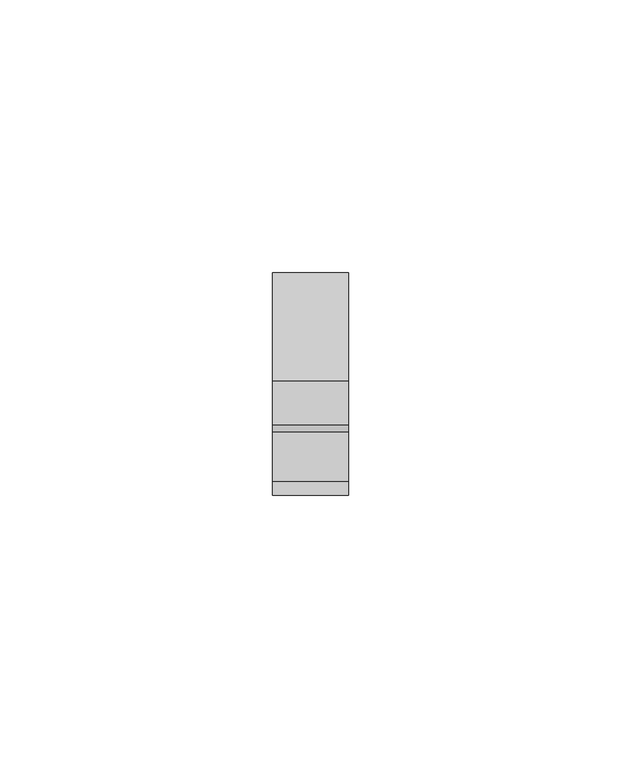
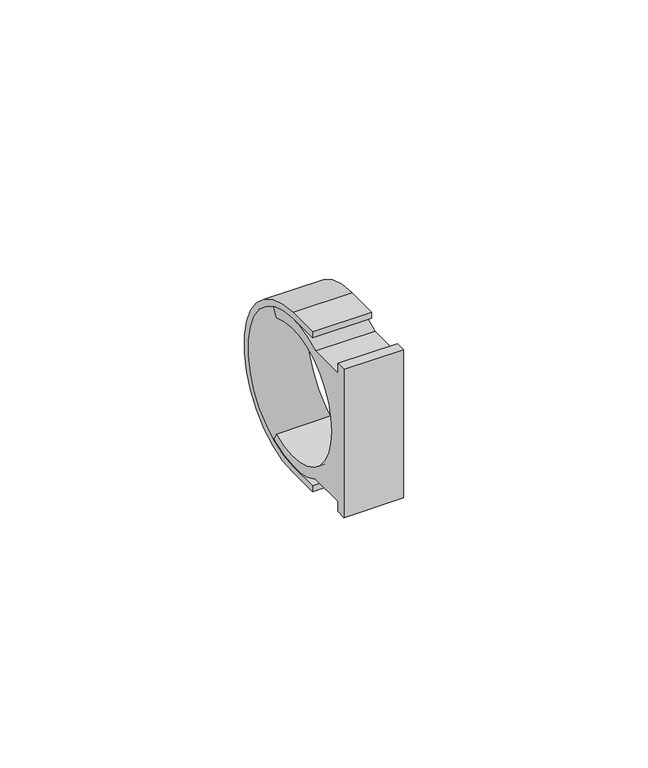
"""IFC4 building model written with IfcOpenShell, lengths in millimetres: valve geometry, PP-R_Clip with lug : DN32 PP-R clip with lug."""

from ifc_helpers import new_model, si_unit, point, frame, frame_2d, origin, place, context, project, spatial, polyline, circle_curve, trimmed, segment, composite_curve, outline, extrude, source, transform, mapped, element, save


def valve_92d850cb(model_context):
    return source(origin(), model_context, "Body", "SweptSolid", [
        extrude(outline(composite_curve([segment(trimmed(circle_curve(frame_2d((0.0, 18.0)), 19.98), [point((0.0, 37.98))], [point((0.0, -1.98))], False, "CARTESIAN"), True, "CONTINUOUS"), segment(polyline([(0.0, -1.98), (-8.0, -1.98), (-8.0, -0.5), (0.0, -0.5)]), True, "CONTINUOUS"), segment(trimmed(circle_curve(frame_2d((0.0, 18.0)), 18.5), [point((0.0, -0.5))], [point((0.0, 36.5))], True, "CARTESIAN"), True, "CONTINUOUS"), segment(polyline([(0.0, 36.5), (-8.0, 36.5), (-8.0, 37.98), (0.0, 37.98)]), True, "CONTINUOUS")], self_intersect=False)), frame((9.5156627, 0.0, 0.0), z_axis=(1.0, 0.0, 0.0), x_axis=(0.0, 1.0, 0.0)), (0.0, 0.0, 1.0), 14.0),
        extrude(outline(composite_curve([segment(trimmed(circle_curve(frame_2d((0.0, 18.0)), 16.0), [point((6.7618922, 32.5009246))], [point((6.7618922, 3.4990754))], True, "CARTESIAN"), True, "CONTINUOUS"), segment(polyline([(6.7618922, 3.4990754), (7.8184378, 1.2333059)]), True, "CONTINUOUS"), segment(trimmed(circle_curve(frame_2d((0.0, 18.0)), 18.5), [point((7.8184378, 1.2333059))], [point((-9.2870878, 2.0))], False, "CARTESIAN"), True, "CONTINUOUS"), segment(polyline([(-9.2870878, 2.0), (-18.5, 2.0), (-18.5, -0.5), (-21.0, -0.5), (-21.0, 36.5), (-18.5, 36.5), (-18.5, 34.0), (-9.2870878, 34.0)]), True, "CONTINUOUS"), segment(trimmed(circle_curve(frame_2d((0.0, 18.0)), 18.5), [point((-9.2870878, 34.0))], [point((7.8184378, 34.7666941))], False, "CARTESIAN"), True, "CONTINUOUS"), segment(polyline([(7.8184378, 34.7666941), (6.7618922, 32.5009246)]), True, "CONTINUOUS")], self_intersect=False)), frame((9.5156627, 0.0, 0.0), z_axis=(1.0, 0.0, 0.0), x_axis=(0.0, 1.0, 0.0)), (0.0, 0.0, 1.0), 14.0),
    ])


if __name__ == "__main__":
    model = new_model("IFC4")
    model_context = context("Model", 3, world=origin())
    ifc_project = project(units=[si_unit("LENGTHUNIT", "METRE", prefix="MILLI")], contexts=[model_context])
    site = spatial("IfcSite", under=ifc_project)
    building = spatial("IfcBuilding", under=site)
    placement = place(None, origin())
    valve_shape = valve_92d850cb(model_context)
    element("IfcValve", 1, ObjectType="PP-R_Clip with lug : DN32 PP-R clip with lug", at=placement, inside=building, context=model_context, shape_type="MappedRepresentation", body=[
        mapped(valve_shape, transform((0.0, 0.0, 0.0), x_axis=(1.0, 0.0, 0.0), y_axis=(0.0, 1.0, 0.0), z_axis=(0.0, 0.0, 1.0))),
    ])
    save(model, "model.ifc")
